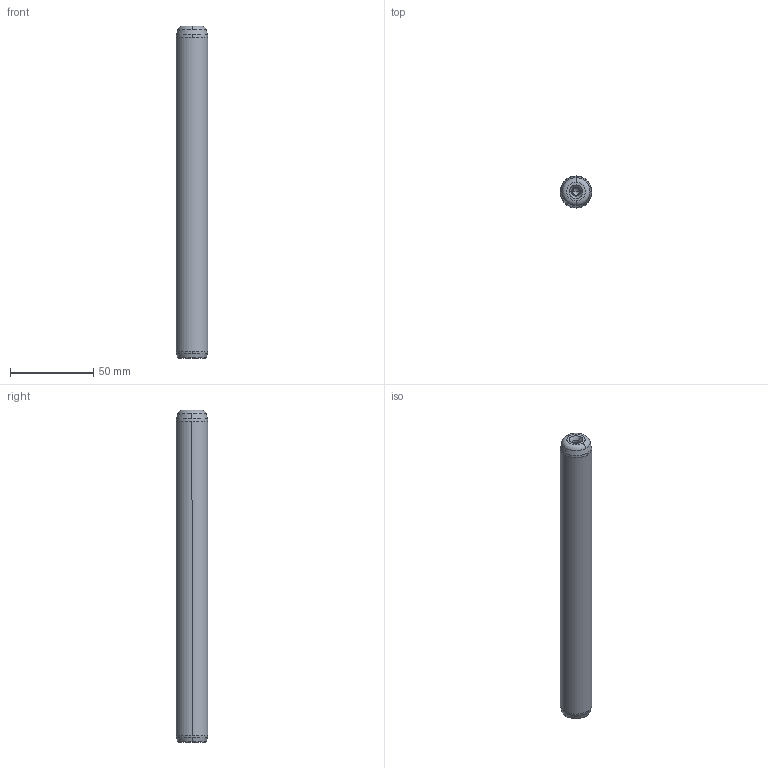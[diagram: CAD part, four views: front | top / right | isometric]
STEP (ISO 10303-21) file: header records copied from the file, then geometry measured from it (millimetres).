
FILE_DESCRIPTION((''),'2;1');
FILE_NAME('P10_019_200.stp','2008-12-23T13:58:21',(''),(''),'Mechanical Desktop 2009','Mechanical Desktop 2009',', , ');
FILE_SCHEMA(('CONFIG_CONTROL_DESIGN'));
Length unit declared in the file: millimetre
Products named in the file (5): Product; ProductAA; blmdl1; ProductA; blmdl1A
Assembly tree (2 placements, depth 3):
  Product
    ProductAA
      blmdl1
  ProductA
  blmdl1A
Bounding box: 19 x 19 x 200 mm (x, y, z)
Volume: 55979.2 mm3; surface area: 12526.6 mm2
Topology: 1 solids, 1 shells, 26 faces, 66 edges, 41 vertices
Faces by surface type: cone 10, cylinder 6, torus 4, bspline 4, plane 2
Entity records: 1100 total; most frequent: CARTESIAN_POINT 238, DIRECTION 162, ORIENTED_EDGE 128, AXIS2_PLACEMENT_3D 73, EDGE_CURVE 64, CIRCLE 48, VERTEX_POINT 41, EDGE_LOOP 27
